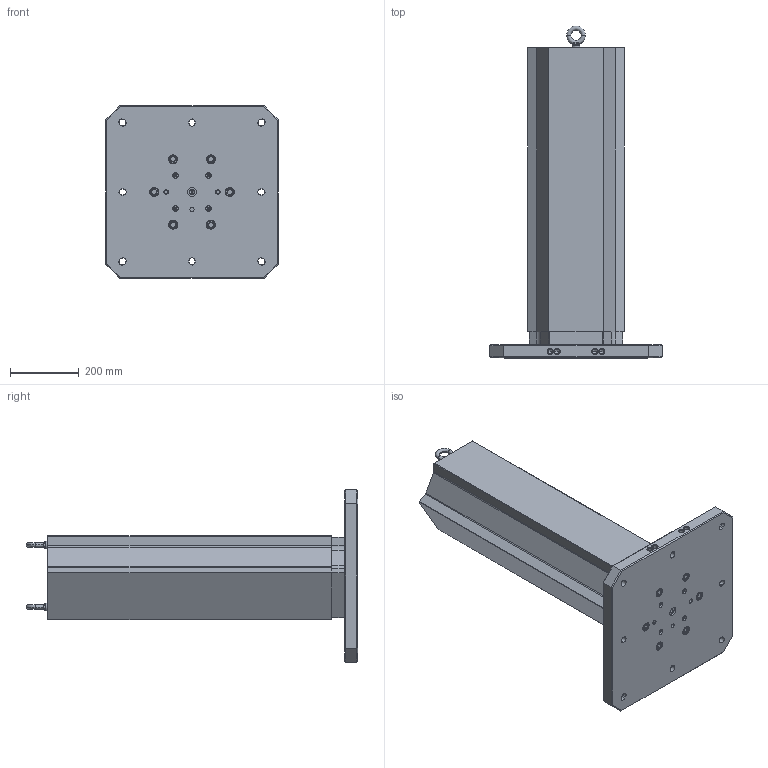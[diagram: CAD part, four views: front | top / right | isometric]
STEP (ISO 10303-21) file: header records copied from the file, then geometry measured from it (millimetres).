
FILE_DESCRIPTION (( 'STEP AP214' ), '1' );
FILE_NAME ('MTA-5003U-900.STEP', '2025-06-24T07:58:36', ( '' ), ( '' ), 'SwSTEP 2.0', 'SolidWorks 2024', '' );
FILE_SCHEMA (( 'AUTOMOTIVE_DESIGN' ));
Length unit declared in the file: millimetre
Products named in the file (8): M12X24MM.EB (McM 3040T15)_3040T15; HW.76172; RL96-5003BUA; HW.76452_dev_91290A835; RL96-14TC; 156x2.OR  -  O-RING, 156mm ID X 2mm THK, BUNA-N, 70A; MT-3862A_MACHINABLE TOWER; MTA-5003U-900
Assembly tree (16 placements, depth 2):
  MTA-5003U-900
    RL96-5003BUA
    MT-3862A_MACHINABLE TOWER
    156x2.OR  -  O-RING, 156mm ID X 2mm THK, BUNA-N, 70A
    RL96-14TC
    HW.76172  x4
    M12X24MM.EB (McM 3040T15)_3040T15  x2
    HW.76452_dev_91290A835  x6
Bounding box: 500 x 962.9 x 500 mm (x, y, z)
Volume: 36444217.2 mm3; surface area: 1937115 mm2
Topology: 16 solids, 16 shells, 1843 faces, 4887 edges, 3096 vertices
Faces by surface type: cylinder 1189, plane 298, cone 288, bspline 38, torus 30
Entity records: 33777 total; most frequent: CARTESIAN_POINT 13966, ORIENTED_EDGE 4224, DIRECTION 4028, EDGE_CURVE 2112, AXIS2_PLACEMENT_3D 1513, VERTEX_POINT 1333, LINE 1002, VECTOR 1002
